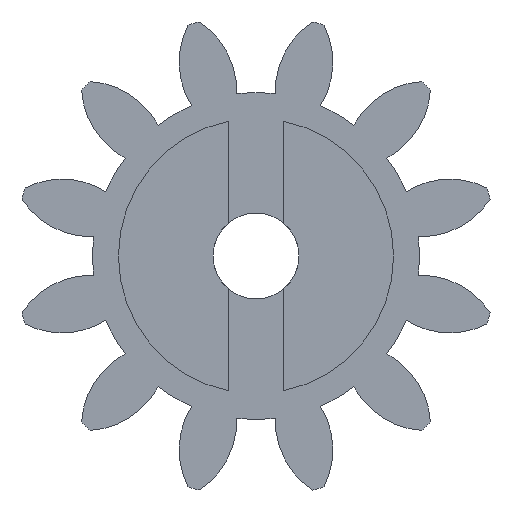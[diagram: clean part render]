
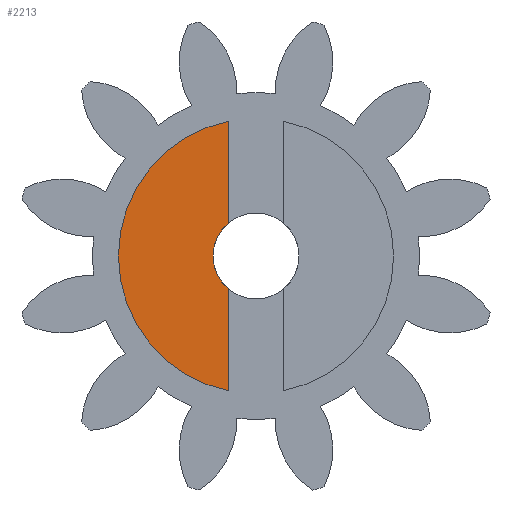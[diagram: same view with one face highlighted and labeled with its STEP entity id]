
A CAD part, left-side view. The second image highlights one B-rep face of the part: STEP entity #2213.
In plain terms, the highlighted planar face has unit normal (-1, 0, 0).
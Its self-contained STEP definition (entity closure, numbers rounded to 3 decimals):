
#2054=AXIS2_PLACEMENT_3D('Circle Axis2P3D',#2052,#2053,$) ;
#2095=AXIS2_PLACEMENT_3D('Circle Axis2P3D',#2093,#2094,$) ;
#2205=AXIS2_PLACEMENT_3D('Plane Axis2P3D',#2202,#2203,#2204) ;
#2018=CARTESIAN_POINT('Vertex',(-1.5,0.8,0.96)) ;
#2025=CARTESIAN_POINT('Vertex',(-1.5,0.8,3.919)) ;
#2028=CARTESIAN_POINT('Line Origine',(-1.5,0.8,2.44)) ;
#2049=CARTESIAN_POINT('Vertex',(-1.5,0.8,-3.919)) ;
#2052=CARTESIAN_POINT('Axis2P3D Location',(-1.5,0.,0.)) ;
#2068=CARTESIAN_POINT('Vertex',(-1.5,0.8,-0.96)) ;
#2071=CARTESIAN_POINT('Line Origine',(-1.5,0.8,-2.44)) ;
#2093=CARTESIAN_POINT('Axis2P3D Location',(-1.5,0.,0.)) ;
#2202=CARTESIAN_POINT('Axis2P3D Location',(-1.5,0.,0.)) ;
#2029=DIRECTION('Vector Direction',(0.,0.,-1.)) ;
#2053=DIRECTION('Axis2P3D Direction',(-1.,0.,0.)) ;
#2072=DIRECTION('Vector Direction',(0.,0.,-1.)) ;
#2094=DIRECTION('Axis2P3D Direction',(-1.,0.,0.)) ;
#2203=DIRECTION('Axis2P3D Direction',(-1.,0.,0.)) ;
#2204=DIRECTION('Axis2P3D XDirection',(0.,-1.,0.)) ;
#2030=VECTOR('Line Direction',#2029,1.) ;
#2073=VECTOR('Line Direction',#2072,1.) ;
#2208=ORIENTED_EDGE('',*,*,#2056,.T.) ;
#2209=ORIENTED_EDGE('',*,*,#2075,.T.) ;
#2210=ORIENTED_EDGE('',*,*,#2097,.T.) ;
#2211=ORIENTED_EDGE('',*,*,#2032,.T.) ;
#2213=ADVANCED_FACE('Bore',(#2212),#2206,.T.) ;
#2055=CIRCLE('generated circle',#2054,4.) ;
#2096=CIRCLE('generated circle',#2095,1.25) ;
#2032=EDGE_CURVE('',#2019,#2026,#2031,.F.) ;
#2056=EDGE_CURVE('',#2026,#2050,#2055,.T.) ;
#2075=EDGE_CURVE('',#2050,#2069,#2074,.F.) ;
#2097=EDGE_CURVE('',#2069,#2019,#2096,.F.) ;
#2207=EDGE_LOOP('',(#2208,#2209,#2210,#2211)) ;
#2212=FACE_OUTER_BOUND('',#2207,.T.) ;
#2031=LINE('Line',#2028,#2030) ;
#2074=LINE('Line',#2071,#2073) ;
#2206=PLANE('Plane',#2205) ;
#2019=VERTEX_POINT('',#2018) ;
#2026=VERTEX_POINT('',#2025) ;
#2050=VERTEX_POINT('',#2049) ;
#2069=VERTEX_POINT('',#2068) ;
